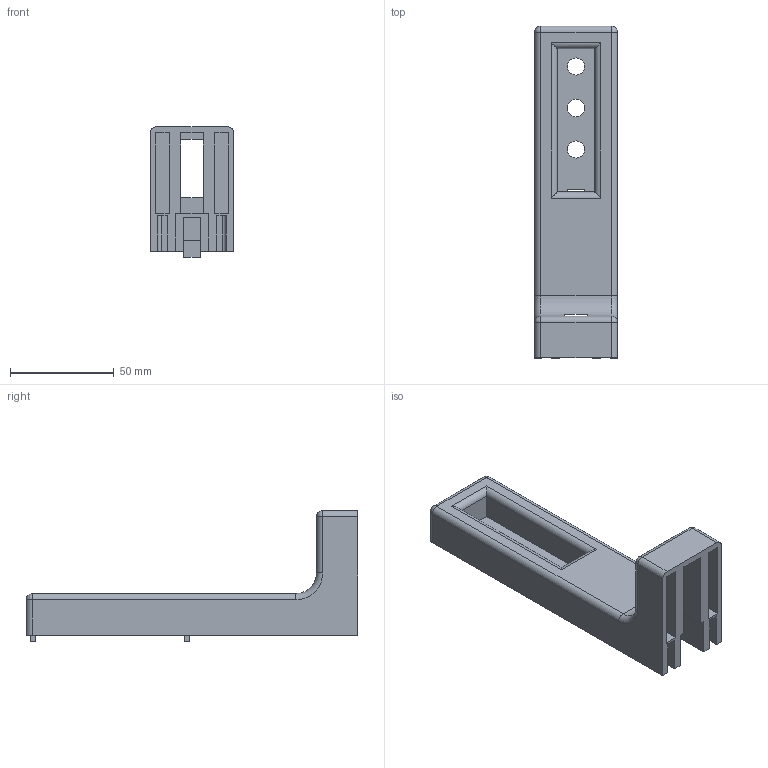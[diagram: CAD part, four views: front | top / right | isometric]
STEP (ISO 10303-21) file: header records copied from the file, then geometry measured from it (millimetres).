
FILE_DESCRIPTION (( 'STEP AP203' ), '1' );
FILE_NAME ('LIMA-FB.STEP', '2018-03-15T12:42:59', ( '' ), ( '' ), 'SwSTEP 2.0', 'SolidWorks 2013', '' );
FILE_SCHEMA (( 'CONFIG_CONTROL_DESIGN' ));
Length unit declared in the file: millimetre
Products named in the file (1): LIMA-FB
Bounding box: 40 x 160 x 63 mm (x, y, z)
Volume: 78618.4 mm3; surface area: 44517.8 mm2
Topology: 1 solids, 1 shells, 133 faces, 356 edges, 228 vertices
Faces by surface type: plane 93, cylinder 34, sphere 4, torus 2
Entity records: 4167 total; most frequent: CARTESIAN_POINT 726, ORIENTED_EDGE 704, DIRECTION 680, EDGE_CURVE 352, LINE 284, VECTOR 284, VERTEX_POINT 228, AXIS2_PLACEMENT_3D 198
